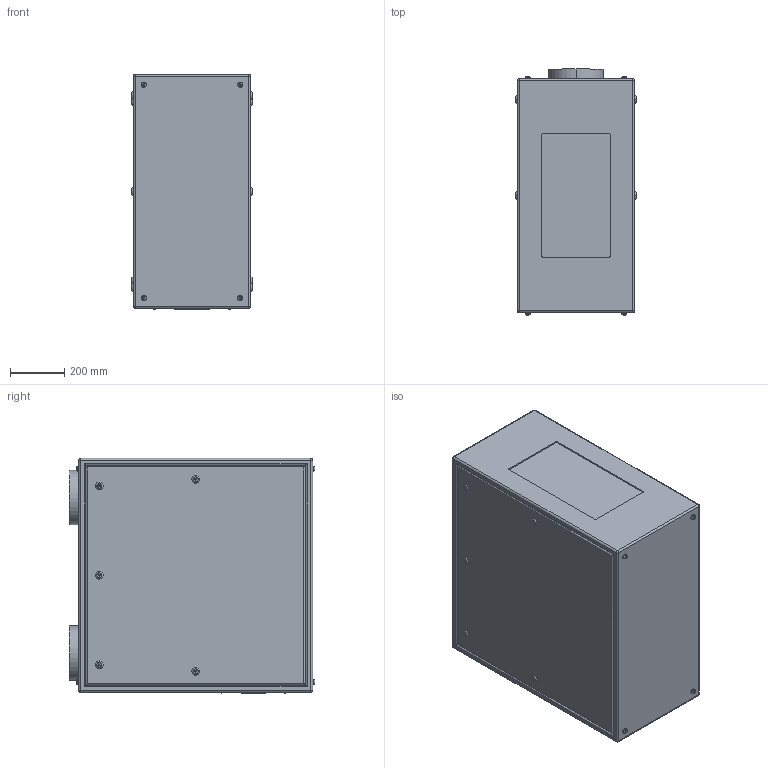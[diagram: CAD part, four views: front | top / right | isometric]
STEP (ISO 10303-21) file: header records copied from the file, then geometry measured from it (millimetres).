
FILE_DESCRIPTION (( 'STEP AP214' ), '1' );
FILE_NAME ('Tacit 56.125.P R07.STEP', '2022-09-11T22:46:47', ( '' ), ( '' ), 'SwSTEP 2.0', 'SolidWorks 2020', '' );
FILE_SCHEMA (( 'AUTOMOTIVE_DESIGN' ));
Length unit declared in the file: inch
Products named in the file (1): Tacit 56.125.P R07
Bounding box: 444.5 x 906.65 x 868.68 mm (x, y, z)
Volume: 320986214.2 mm3; surface area: 3401151.7 mm2
Topology: 1 solids, 5 shells, 443 faces, 988 edges, 624 vertices
Faces by surface type: plane 235, cylinder 152, torus 48, sphere 8
Entity records: 15597 total; most frequent: DIRECTION 2220, CARTESIAN_POINT 2096, ORIENTED_EDGE 1960, EDGE_CURVE 980, AXIS2_PLACEMENT_3D 812, VERTEX_POINT 624, LINE 596, VECTOR 596
